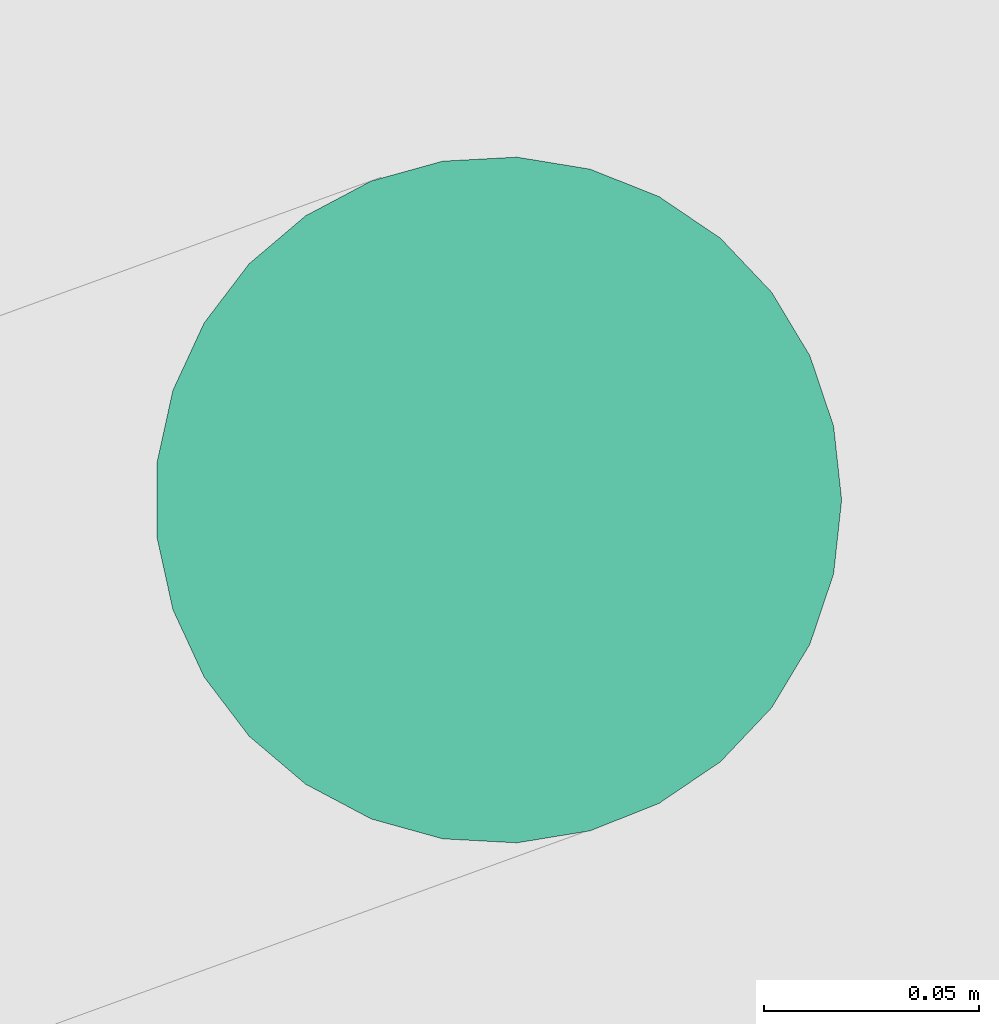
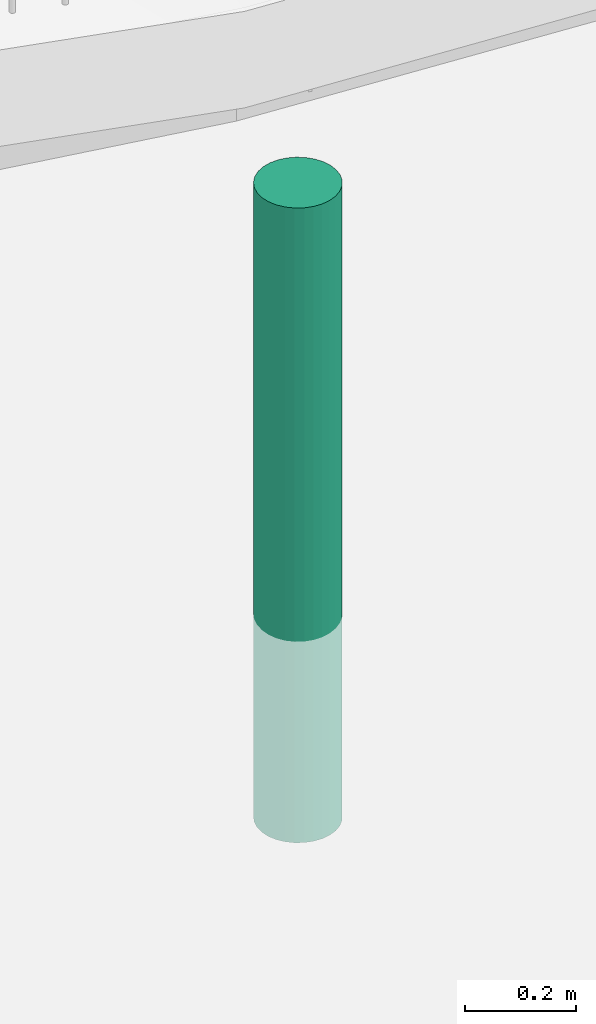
# Not in any storey, part 11 of 45: 1 pipe segment.
"""IFC4 model written with IfcOpenShell, lengths in metres."""

from ifc_helpers import new_model, si_unit, direction, frame, origin_with_axes, place, context, subcontext, project, spatial, circle, extrude, material, material_profile, profile_set, profile_usage, type_object, element, save


model = new_model("IFC4")

# Units and contexts
model_context = context("Model", 3, precision=1e-05, world=origin_with_axes(), true_north=direction((0.0, 1.0)))
body_context = subcontext(model_context, "Body", "Model", "MODEL_VIEW")
ifc_project = project(units=[si_unit("VOLUMEUNIT", "CUBIC_METRE"), si_unit("LENGTHUNIT", "METRE"), si_unit("AREAUNIT", "SQUARE_METRE")], contexts=[model_context])

# Site
site_placement = place(None, origin_with_axes())
site = spatial("IfcSite", under=ifc_project, at=site_placement, Name="Lares · Rua das Mercês · artigo 4771")

# Pipe segment
ifc_material = material(Name="Caleiras · betão", Category="concrete")
ifc_material_profile = material_profile(ifc_material, circle(Radius=0.08))
ifc_profile_set = profile_set([ifc_material_profile], Name="D0.16")
ifc_profile_usage = profile_usage(ifc_profile_set)
pipe_segment_type = type_object("IfcPipeSegmentType", Name="D0.16 / drain", PredefinedType="NOTDEFINED", material=ifc_profile_set)
pipe_segment_placement = place(site_placement, frame((48.6078367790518, 2.79748059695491, 15.28), z_axis=(0.0, 0.0, -1.0), x_axis=(1.0, -1.03767253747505e-17, 0.0)))
element("IfcPipeSegment", 1, at=pipe_segment_placement, inside=site, type_object=pipe_segment_type, material=ifc_profile_usage, Name="Acesso · queda pluvial até coletor", context=body_context, shape_type="SweptSolid", body=[
    extrude(circle(Radius=0.08), origin_with_axes(), (0.0, 0.0, 1.0), 1.39470800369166),
])

save(model, "model.ifc")
